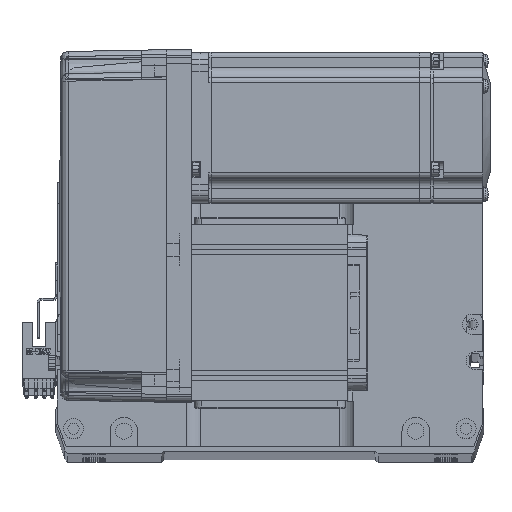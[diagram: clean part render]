
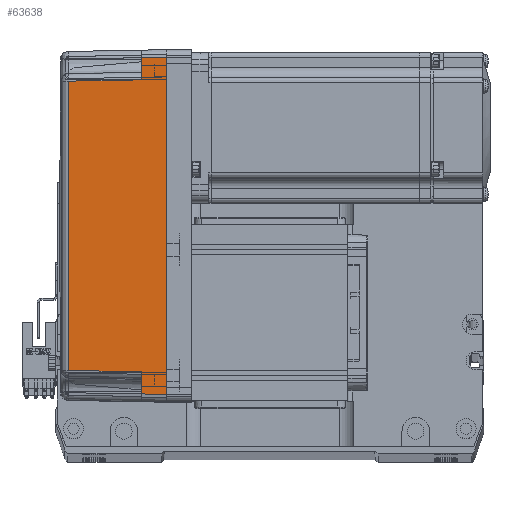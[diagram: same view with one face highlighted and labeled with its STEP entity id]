
A CAD part, top view. The second image highlights one B-rep face of the part: STEP entity #63638.
In plain terms, the highlighted planar face has unit normal (-0.018, 0, 1) as drawn and (0, 1, 0.017) by its records, which use the part's own axes.
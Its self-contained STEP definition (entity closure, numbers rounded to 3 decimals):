
#509 = DIRECTION ( 'NONE',  ( 1., 0., 0. ) ) ;
#684 = CARTESIAN_POINT ( 'NONE',  ( 57.495, 35.32, 38.985 ) ) ;
#1159 = CARTESIAN_POINT ( 'NONE',  ( -58., 35.825, 10. ) ) ;
#1360 = CARTESIAN_POINT ( 'NONE',  ( 0., 36., 0. ) ) ;
#1966 = CARTESIAN_POINT ( 'NONE',  ( -67., 36., 0. ) ) ;
#4017 = DIRECTION ( 'NONE',  ( 1., 0., 0. ) ) ;
#4020 = CARTESIAN_POINT ( 'NONE',  ( 57.495, 35.32, 38.985 ) ) ;
#4046 = B_SPLINE_CURVE_WITH_KNOTS ( 'NONE', 3,
 ( #17107, #62752, #52582, #21713 ),
 .UNSPECIFIED., .F., .F.,
 ( 4, 4 ),
 ( 0., 1. ),
 .UNSPECIFIED. ) ;
#4905 = CARTESIAN_POINT ( 'NONE',  ( 70., 35.825, 10. ) ) ;
#4917 = VECTOR ( 'NONE', #52689, 1000. ) ;
#7003 = VECTOR ( 'NONE', #27178, 1000. ) ;
#7920 = VERTEX_POINT ( 'NONE', #66901 ) ;
#8742 = VERTEX_POINT ( 'NONE', #20468 ) ;
#11293 = DIRECTION ( 'NONE',  ( 0., -0.017, 1. ) ) ;
#11914 = VERTEX_POINT ( 'NONE', #1159 ) ;
#12558 = VERTEX_POINT ( 'NONE', #18364 ) ;
#13063 = CARTESIAN_POINT ( 'NONE',  ( 58., 35.825, 10. ) ) ;
#13529 = VECTOR ( 'NONE', #21852, 1000. ) ;
#13800 = DIRECTION ( 'NONE',  ( 0.017, 0.017, -1. ) ) ;
#14300 = LINE ( 'NONE', #1966, #7003 ) ;
#16054 = DIRECTION ( 'NONE',  ( 0., 1., 0.017 ) ) ;
#16313 = CARTESIAN_POINT ( 'NONE',  ( -58., 35.825, 10. ) ) ;
#17107 = CARTESIAN_POINT ( 'NONE',  ( -57.495, 35.32, 38.985 ) ) ;
#18051 = LINE ( 'NONE', #57698, #26114 ) ;
#18364 = CARTESIAN_POINT ( 'NONE',  ( -66.826, 35.825, 10. ) ) ;
#18621 = VECTOR ( 'NONE', #55020, 1000. ) ;
#18807 = FACE_OUTER_BOUND ( 'NONE', #31066, .T. ) ;
#18934 = VERTEX_POINT ( 'NONE', #13063 ) ;
#19054 = ORIENTED_EDGE ( 'NONE', *, *, #55137, .T. ) ;
#19567 = EDGE_CURVE ( 'NONE', #11914, #58692, #21154, .T. ) ;
#20468 = CARTESIAN_POINT ( 'NONE',  ( 66.826, 35.825, 10. ) ) ;
#20991 = VECTOR ( 'NONE', #4017, 1000. ) ;
#21154 = LINE ( 'NONE', #16313, #4917 ) ;
#21713 = CARTESIAN_POINT ( 'NONE',  ( 57.495, 35.32, 38.985 ) ) ;
#21852 = DIRECTION ( 'NONE',  ( 1., 0., 0. ) ) ;
#24967 = EDGE_CURVE ( 'NONE', #7920, #8742, #32397, .T. ) ;
#26114 = VECTOR ( 'NONE', #509, 1000. ) ;
#27178 = DIRECTION ( 'NONE',  ( 0.017, -0.017, 1. ) ) ;
#28298 = ORIENTED_EDGE ( 'NONE', *, *, #24967, .F. ) ;
#29945 = CARTESIAN_POINT ( 'NONE',  ( -67., 36., 0. ) ) ;
#31066 = EDGE_LOOP ( 'NONE', ( #19054, #64612, #56751, #64920, #43123, #40158, #28298, #48960 ) ) ;
#32397 = LINE ( 'NONE', #60002, #18621 ) ;
#32401 = PLANE ( 'NONE',  #53587 ) ;
#33299 = EDGE_CURVE ( 'NONE', #12558, #11914, #37972, .T. ) ;
#37803 = LINE ( 'NONE', #1360, #13529 ) ;
#37972 = LINE ( 'NONE', #4905, #20991 ) ;
#40158 = ORIENTED_EDGE ( 'NONE', *, *, #56573, .T. ) ;
#41663 = CARTESIAN_POINT ( 'NONE',  ( -57.495, 35.32, 38.985 ) ) ;
#42150 = VECTOR ( 'NONE', #13800, 1000. ) ;
#42953 = LINE ( 'NONE', #4020, #42150 ) ;
#43123 = ORIENTED_EDGE ( 'NONE', *, *, #64132, .T. ) ;
#47519 = CARTESIAN_POINT ( 'NONE',  ( 70., 36., 0. ) ) ;
#48960 = ORIENTED_EDGE ( 'NONE', *, *, #54577, .F. ) ;
#52582 = CARTESIAN_POINT ( 'NONE',  ( 19.165, 35.316, 39.181 ) ) ;
#52689 = DIRECTION ( 'NONE',  ( 0.017, -0.017, 1. ) ) ;
#53587 = AXIS2_PLACEMENT_3D ( 'NONE', #47519, #16054, #11293 ) ;
#54577 = EDGE_CURVE ( 'NONE', #66627, #7920, #37803, .T. ) ;
#55020 = DIRECTION ( 'NONE',  ( -0.017, -0.017, 1. ) ) ;
#55137 = EDGE_CURVE ( 'NONE', #66627, #12558, #14300, .T. ) ;
#56573 = EDGE_CURVE ( 'NONE', #18934, #8742, #18051, .T. ) ;
#56751 = ORIENTED_EDGE ( 'NONE', *, *, #19567, .T. ) ;
#57698 = CARTESIAN_POINT ( 'NONE',  ( 70., 35.825, 10. ) ) ;
#58692 = VERTEX_POINT ( 'NONE', #41663 ) ;
#59304 = EDGE_CURVE ( 'NONE', #58692, #66191, #4046, .T. ) ;
#60002 = CARTESIAN_POINT ( 'NONE',  ( 67.001, 36.001, -0.052 ) ) ;
#62752 = CARTESIAN_POINT ( 'NONE',  ( -19.165, 35.316, 39.181 ) ) ;
#63638 = ADVANCED_FACE ( 'NONE', ( #18807 ), #32401, .T. ) ;
#64132 = EDGE_CURVE ( 'NONE', #66191, #18934, #42953, .T. ) ;
#64612 = ORIENTED_EDGE ( 'NONE', *, *, #33299, .T. ) ;
#64920 = ORIENTED_EDGE ( 'NONE', *, *, #59304, .T. ) ;
#66191 = VERTEX_POINT ( 'NONE', #684 ) ;
#66627 = VERTEX_POINT ( 'NONE', #29945 ) ;
#66901 = CARTESIAN_POINT ( 'NONE',  ( 67., 36., 0. ) ) ;
